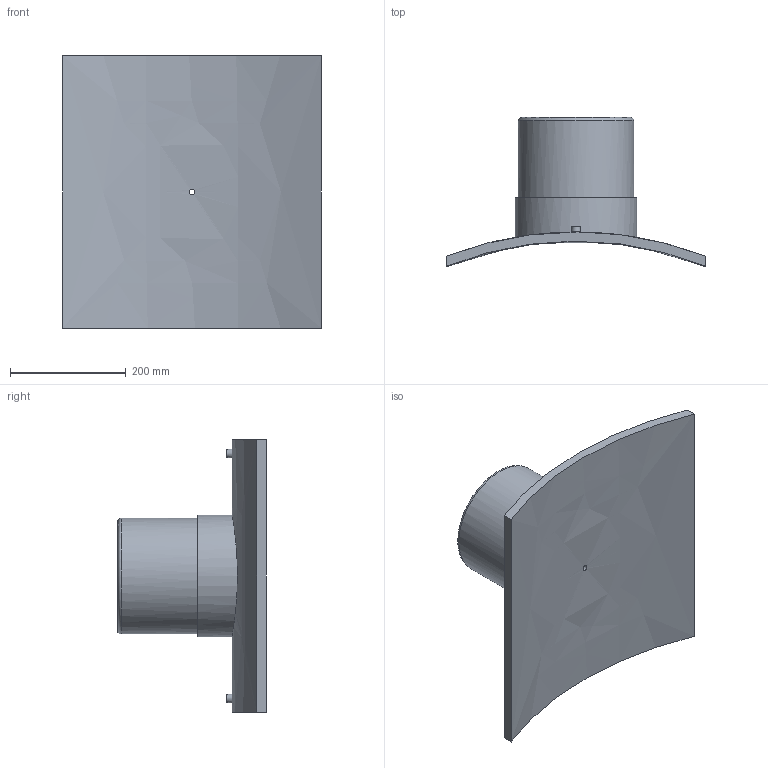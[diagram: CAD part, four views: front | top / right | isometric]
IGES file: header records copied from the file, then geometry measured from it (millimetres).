
Global section: file name: 4958031200200T; native system: Autodesk Inventor 2019; preprocessor: unknown; author: KIM; date: 20240404.114804; units: millimetre
Bounding box: 447 x 257.18 x 470 mm (x, y, z)
Volume: 5928443.9 mm3; surface area: 698427.6 mm2
Topology: 1 solids, 1 shells, 29 faces, 60 edges, 43 vertices
Faces by surface type: bspline 29
